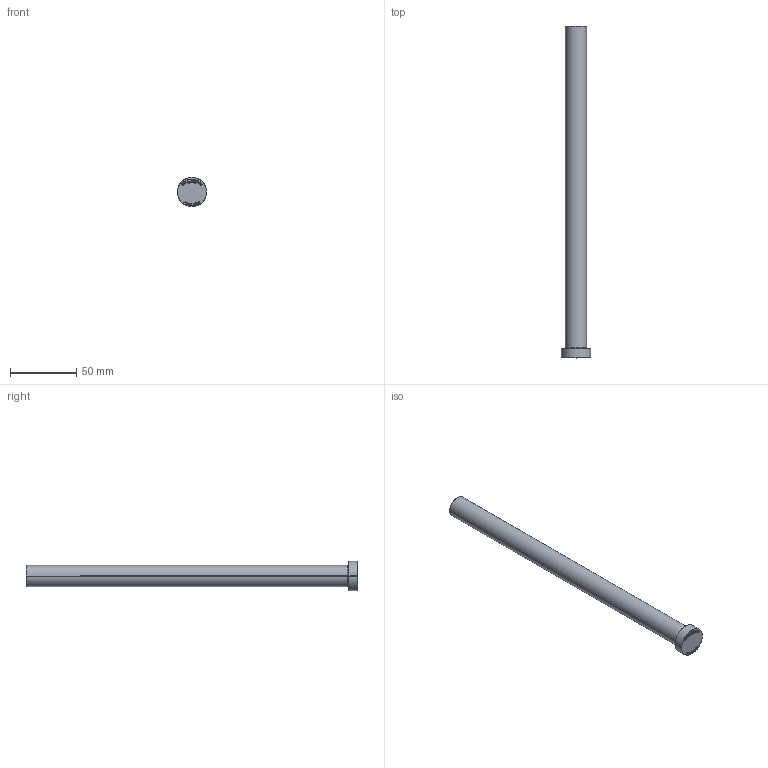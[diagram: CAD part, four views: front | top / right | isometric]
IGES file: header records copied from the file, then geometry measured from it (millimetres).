
Start section: SolidWorks IGES file using analytic representation for surfaces
Global section: file name: C:\Users\User\Downloads\Matripeça 31-08 tar\PB - PINO EXTRATOR TIPO _B_ (CATÁLOGO)\PB16,0\PB16,0250.IGS; native system: SolidWorks 2024; preprocessor: SolidWorks 2024; author: User; date: 260901.155120; units: millimetre
Bounding box: 22 x 250 x 22 mm (x, y, z)
Surface area: 13458.8 mm2 (no closed solid volume)
Topology: 0 solids, 0 shells, 401 faces, 4195 edges, 4195 vertices
Faces by surface type: bspline 387, revolution 14
